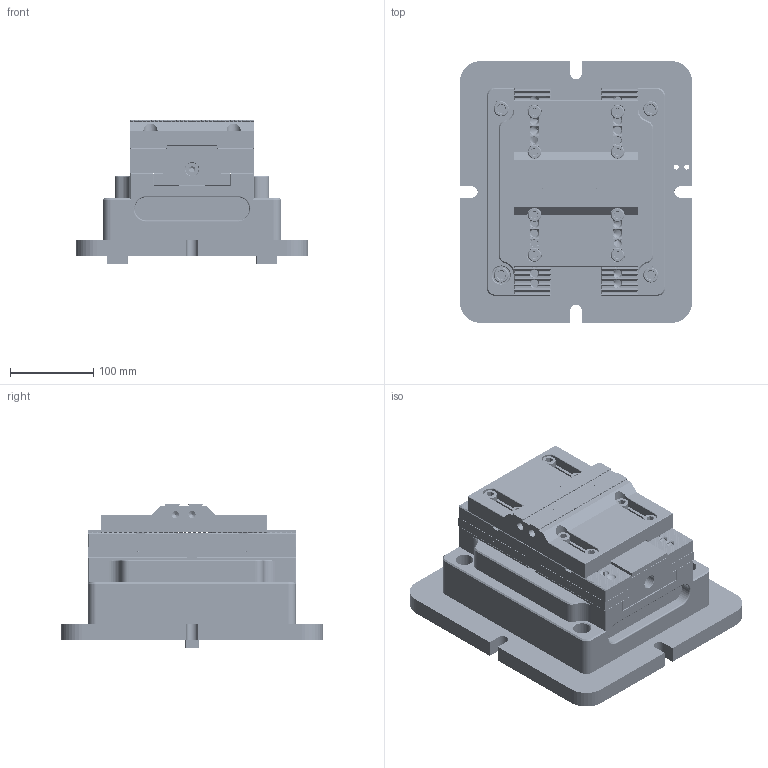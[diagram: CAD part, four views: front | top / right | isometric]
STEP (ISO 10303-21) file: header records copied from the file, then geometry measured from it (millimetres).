
FILE_DESCRIPTION(/* description */ (''),/* implementation_level */ '2;1');
FILE_NAME(/* name */ 'C:/Users/mramirez/Desktop/59-1954A_VF_Air_Vise150mm.step',/* time_stamp */ '2023-03-07T13:58:37-08:00',/* author */ (''),/* organization */ (''),/* preprocessor_version */ 'ST-DEVELOPER v19',/* originating_system */ 'Autodesk Translation Framework v11.7.0.108',/* authorisation */ '');
FILE_SCHEMA (('AUTOMOTIVE_DESIGN { 1 0 10303 214 3 1 1 }'));
Products named in the file (32): 59-1954A_VF_Air_Vise150mm.f3d ; 10000172274; 10000172264; 10000172271; 10000172273; 10000172270; 10000172272; 10000172268; 10000172269; 10000172267; 10000172266; 10000172265; 10000172263; 10000172262; 10000172278; 10000172276; 10000172277; 10000172279; 10000172178; 10000172208; 10000172275; 10000155647(BOM Item); 10000172143; 10000172143 (1); 10000172143 (2); 58-3105; 10000183889; 10000183890; 40-0011; 10000006235; 40-0159; 10000016273
Assembly tree (56 placements, depth 3):
  59-1954A_VF_Air_Vise150mm.f3d 
    10000172274
    10000172264
    10000172271
    10000172273
    10000172270
    10000172272
    10000172268
    10000172269
    10000172267
    10000172266
    10000172265
    10000172263
    10000172262
    10000172278
    10000172276
    10000172277
    10000172279
    10000172178  x2
    10000172208
    10000172275
    10000155647(BOM Item)  x2
    10000172143  x2
    10000172143 (1)  x2
    10000172143 (2)  x2
    58-3105  x2
    10000183889
      10000183890  x2
    40-0011  x8
    10000006235  x2
    40-0159  x4
    10000016273  x8
Bounding box: 280 x 315 x 172.69 mm (x, y, z)
Volume: 5232662.2 mm3; surface area: 996964.1 mm2
Topology: 52 solids, 55 shells, 6128 faces, 17427 edges, 11316 vertices
Faces by surface type: plane 4528, cylinder 743, cone 481, bspline 352, torus 20, sphere 4
Full cylindrical faces by diameter (mm): 2 x4, 3.4 x36, 3.5 x8, 4 x42, 4.5 x2, 5 x4, 5.1 x10, 5.842 x8, 6 x8, 6.4 x8, 6.5 x2, 6.8 x4, 7 x26, 7.142 x8, 7.5 x2, 8 x24, 8.5 x24, 9.727 x64, 10 x15, 11 x10, 11.125 x2, 11.2 x2, 12 x72, 13 x12, 13.5 x4, 13.716 x2, 16 x24, 16.5 x1, 18 x4, 21 x4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
Entity records: 235845 total; most frequent: CARTESIAN_POINT 152463, ORIENTED_EDGE 17617, DIRECTION 14848, EDGE_CURVE 8863, LINE 6448, VECTOR 6448, VERTEX_POINT 5831, AXIS2_PLACEMENT_3D 4200
